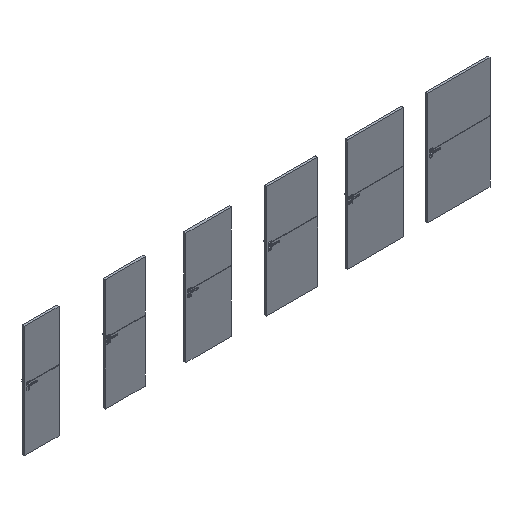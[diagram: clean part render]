
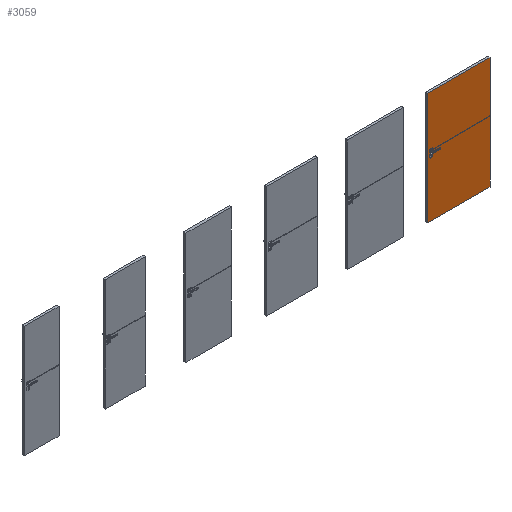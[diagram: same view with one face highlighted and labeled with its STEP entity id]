
A CAD part, isometric view. The second image highlights one B-rep face of the part: STEP entity #3059.
In plain terms, the highlighted planar face has unit normal (0, -1, 0).
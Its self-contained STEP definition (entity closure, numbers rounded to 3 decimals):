
#1885=CIRCLE('',#19394,3.);
#3059=ADVANCED_FACE('',(#4697),#3838,.F.);
#3838=PLANE('',#19395);
#4697=FACE_OUTER_BOUND('',#5873,.T.);
#5873=EDGE_LOOP('',(#9515,#9516,#9517,#9518,#9519,#9520,#9521,#9522));
#9515=ORIENTED_EDGE('',*,*,#14529,.F.);
#9516=ORIENTED_EDGE('',*,*,#14530,.T.);
#9517=ORIENTED_EDGE('',*,*,#14531,.T.);
#9518=ORIENTED_EDGE('',*,*,#14532,.T.);
#9519=ORIENTED_EDGE('',*,*,#14533,.F.);
#9520=ORIENTED_EDGE('',*,*,#14534,.F.);
#9521=ORIENTED_EDGE('',*,*,#14535,.T.);
#9522=ORIENTED_EDGE('',*,*,#14536,.T.);
#12381=VERTEX_POINT('',#33134);
#12382=VERTEX_POINT('',#33135);
#12383=VERTEX_POINT('',#33137);
#12384=VERTEX_POINT('',#33139);
#12385=VERTEX_POINT('',#33141);
#12386=VERTEX_POINT('',#33143);
#12387=VERTEX_POINT('',#33145);
#12388=VERTEX_POINT('',#33147);
#14529=EDGE_CURVE('',#12381,#12382,#16401,.T.);
#14530=EDGE_CURVE('',#12381,#12383,#16402,.T.);
#14531=EDGE_CURVE('',#12383,#12384,#1885,.T.);
#14532=EDGE_CURVE('',#12384,#12385,#16403,.T.);
#14533=EDGE_CURVE('',#12386,#12385,#16404,.T.);
#14534=EDGE_CURVE('',#12387,#12386,#16405,.T.);
#14535=EDGE_CURVE('',#12387,#12388,#16406,.T.);
#14536=EDGE_CURVE('',#12388,#12382,#16407,.T.);
#16401=LINE('',#33133,#17817);
#16402=LINE('',#33136,#17818);
#16403=LINE('',#33140,#17819);
#16404=LINE('',#33142,#17820);
#16405=LINE('',#33144,#17821);
#16406=LINE('',#33146,#17822);
#16407=LINE('',#33148,#17823);
#17817=VECTOR('',#23124,1.);
#17818=VECTOR('',#23125,1.);
#17819=VECTOR('',#23128,1.);
#17820=VECTOR('',#23129,1.);
#17821=VECTOR('',#23130,1.);
#17822=VECTOR('',#23131,1.);
#17823=VECTOR('',#23132,1.);
#19394=AXIS2_PLACEMENT_3D('',#33138,#23126,#23127);
#19395=AXIS2_PLACEMENT_3D('',#33149,#23133,#23134);
#23124=DIRECTION('',(0.,0.,-1.));
#23125=DIRECTION('',(-1.,0.,0.));
#23126=DIRECTION('',(0.,1.,0.));
#23127=DIRECTION('',(1.,0.,0.));
#23128=DIRECTION('',(1.,0.,0.));
#23129=DIRECTION('',(0.,0.,-1.));
#23130=DIRECTION('',(1.,0.,0.));
#23131=DIRECTION('',(0.,0.,-1.));
#23132=DIRECTION('',(1.,0.,0.));
#23133=DIRECTION('',(0.,1.,0.));
#23134=DIRECTION('',(-1.,0.,0.));
#33133=CARTESIAN_POINT('',(8059.,-39.3,2017.));
#33134=CARTESIAN_POINT('',(8059.,-39.3,1101.));
#33135=CARTESIAN_POINT('',(8059.,-39.3,0.));
#33136=CARTESIAN_POINT('',(8059.,-39.3,1101.));
#33137=CARTESIAN_POINT('',(7035.,-39.3,1101.));
#33138=CARTESIAN_POINT('',(7035.,-39.3,1104.));
#33139=CARTESIAN_POINT('',(7035.,-39.3,1107.));
#33140=CARTESIAN_POINT('',(7035.,-39.3,1107.));
#33141=CARTESIAN_POINT('',(8059.,-39.3,1107.));
#33142=CARTESIAN_POINT('',(8059.,-39.3,2017.));
#33143=CARTESIAN_POINT('',(8059.,-39.3,2017.));
#33144=CARTESIAN_POINT('',(7191.,-39.3,2017.));
#33145=CARTESIAN_POINT('',(6941.,-39.3,2017.));
#33146=CARTESIAN_POINT('',(6941.,-39.3,2017.));
#33147=CARTESIAN_POINT('',(6941.,-39.3,0.));
#33148=CARTESIAN_POINT('',(7191.,-39.3,0.));
#33149=CARTESIAN_POINT('',(7191.,-39.3,2017.));
